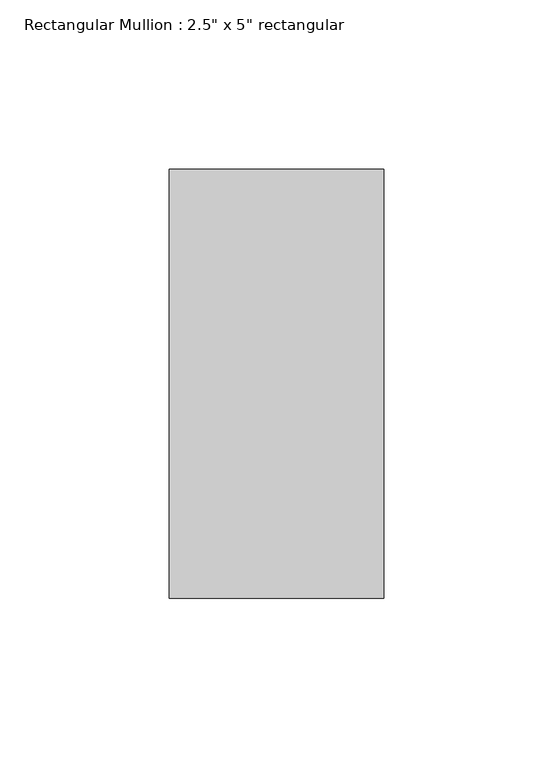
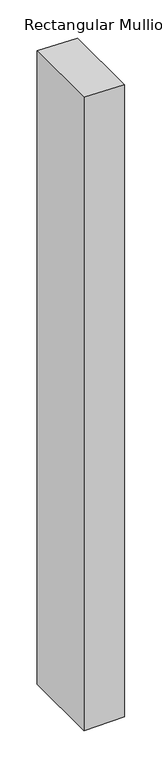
"""IFC4 building model written with IfcOpenShell, lengths in millimetres: member geometry."""

from ifc_helpers import new_model, si_unit, frame, origin, place, context, project, spatial, polyline, outline, extrude, source, transform, mapped, element, save


def member_7038c49c(model_context):
    return source(origin(), model_context, "Body", "SweptSolid", [
        extrude(outline(polyline([(0.0, 0.0), (1.506495, -63.5), (-1041.0254229, -63.5), (-1039.7240154, 0.0), (0.0, 0.0)])), frame((0.0, -63.5, 0.0), z_axis=(0.0, 1.0, 0.0), x_axis=(0.0, 0.0, 1.0)), (0.0, 0.0, 1.0), 127.0),
    ])


if __name__ == "__main__":
    model = new_model("IFC4")
    model_context = context("Model", 3, world=origin())
    ifc_project = project(units=[si_unit("LENGTHUNIT", "METRE", prefix="MILLI")], contexts=[model_context])
    site = spatial("IfcSite", under=ifc_project)
    building = spatial("IfcBuilding", under=site)
    placement = place(None, origin())
    member_shape = member_7038c49c(model_context)
    element("IfcMember", 1, ObjectType="Rectangular Mullion : 2.5\" x 5\" rectangular", at=placement, inside=building, context=model_context, shape_type="MappedRepresentation", body=[
        mapped(member_shape, transform((0.0, 0.0, 0.0), x_axis=(1.0, 0.0, 0.0), y_axis=(0.0, 1.0, 0.0), z_axis=(0.0, 0.0, 1.0))),
    ])
    save(model, "model.ifc")
